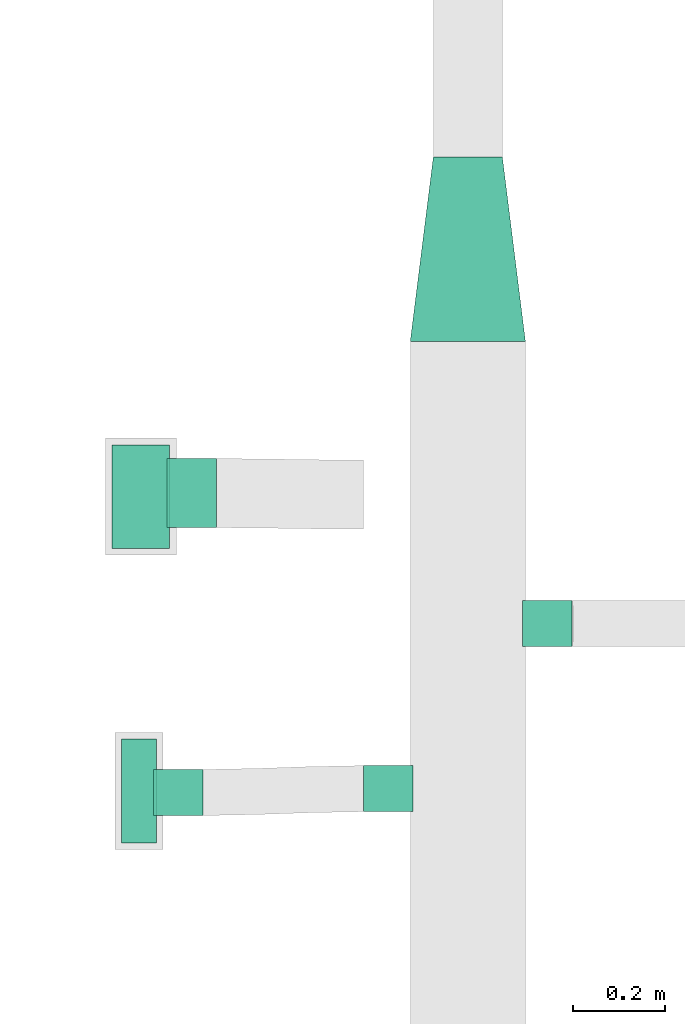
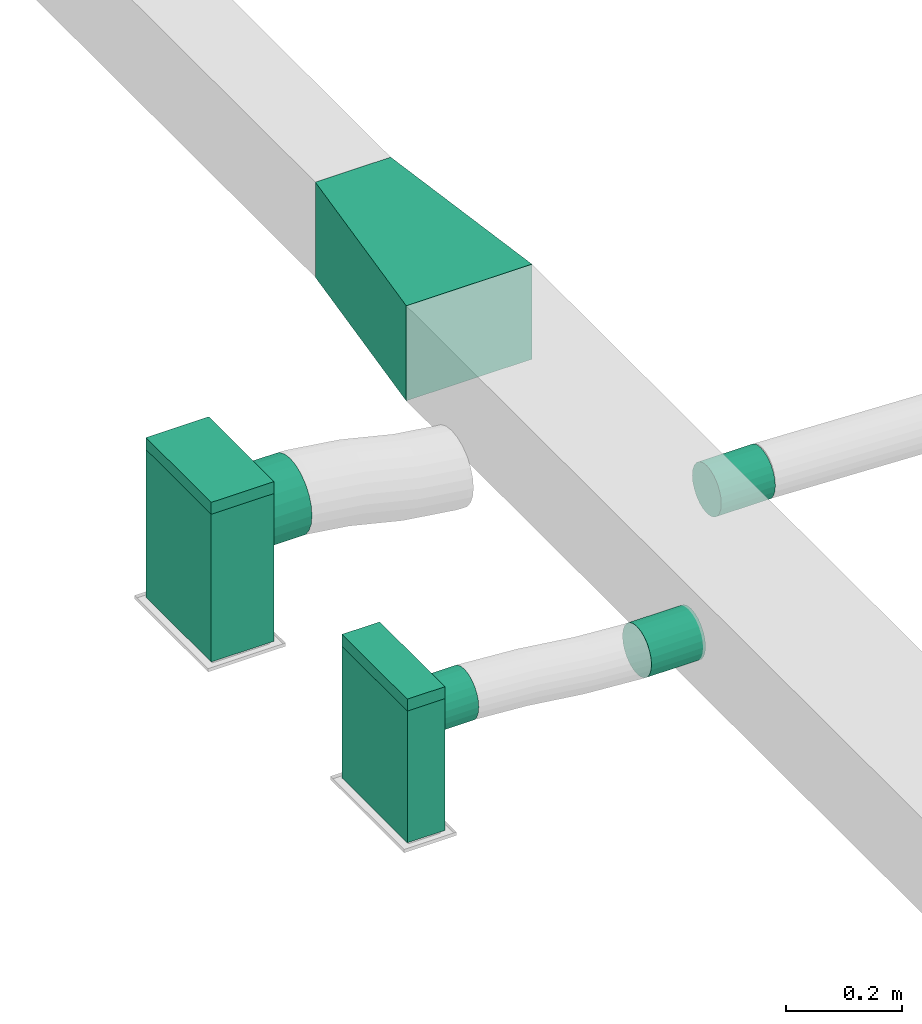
# One storey, part 21 of 60: 7 flow fittings, 2 flow segments.
"""IFC2X3 building model written with IfcOpenShell, lengths in millimetres."""

from ifc_helpers import new_model, entity, si_unit, converted_unit, derived_unit, direction, frame, origin, origin_2d_with_axis, place, context, subcontext, project, spatial, polyline, rectangle, outline, extrude, faceted_brep, source, transform, mapped, material, type_object, type_shapes, element, save


model = new_model("IFC2X3")

# Units and contexts
model_context = context("Model", 3, precision=0.01, world=origin(), true_north=direction((6.123233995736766e-17, 1.0)))
body_context = subcontext(model_context, "Body", "Model", "MODEL_VIEW")
ifc_project = project(units=[si_unit("LENGTHUNIT", "METRE", prefix="MILLI"), converted_unit("PLANEANGLEUNIT", "DEGREE", entity("IfcPlaneAngleMeasure", 0.017453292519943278), si_unit("PLANEANGLEUNIT", "RADIAN"), dimensions=[0, 0, 0, 0, 0, 0, 0]), si_unit("AREAUNIT", "SQUARE_METRE"), derived_unit("THERMALTRANSMITTANCEUNIT", [(si_unit("MASSUNIT", "GRAM", prefix="KILO"), 1), (si_unit("THERMODYNAMICTEMPERATUREUNIT", "KELVIN"), -1), (si_unit("TIMEUNIT", "SECOND"), -3)])], contexts=[model_context])

# Site, building, storey
site_placement = place(None, origin())
site = spatial("IfcSite", under=ifc_project, at=site_placement, Name="Default", CompositionType="ELEMENT")
building_placement = place(site_placement, origin())
building = spatial("IfcBuilding", under=site, at=building_placement, Name="Praça Pedro II, 1301 - Centro (Sul), Teresina - PI, 64001-100", CompositionType="ELEMENT")
storey_placement = place(building_placement, frame((0.0, 0.0, 6040.0)))
storey = spatial("IfcBuildingStorey", under=building, at=storey_placement, Name="2PAV", CompositionType="ELEMENT", Elevation=6040.0)

# Flow segments
duct_segment_type = type_object("IfcDuctSegmentType", Name="Duto retangular:Raios cotovelos / torneiras", PredefinedType="NOTDEFINED")
flow_segment_1_placement = place(storey_placement, origin())
element("IfcFlowSegment", 1, at=flow_segment_1_placement, inside=storey, type_object=duct_segment_type, Name="Duto retangular:Raios cotovelos / torneiras", ObjectType="Duto retangular:Raios cotovelos / torneiras", context=body_context, shape_type="SweptSolid", body=[
    extrude(rectangle(XDim=124.99999999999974, YDim=225.00000000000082, at=origin_2d_with_axis()), frame((9432.501796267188, -65486.79111140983, 2500.0), z_axis=(0.0, 0.0, 1.0), x_axis=(-1.0, 0.0, 0.0)), (0.0, 0.0, 1.0), 310.7036204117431),
])
flow_segment_2_placement = place(storey_placement, origin())
element("IfcFlowSegment", 2, at=flow_segment_2_placement, inside=storey, type_object=duct_segment_type, Name="Duto retangular:Raios cotovelos / torneiras", ObjectType="Duto retangular:Raios cotovelos / torneiras", context=body_context, shape_type="SweptSolid", body=[
    extrude(rectangle(XDim=75.00000000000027, YDim=225.00000000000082, at=origin_2d_with_axis()), frame((9428.5054284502, -66126.01096728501, 2500.0), z_axis=(0.0, 0.0, 1.0), x_axis=(-1.0, 0.0, 0.0)), (0.0, 0.0, 1.0), 277.1534595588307),
])

# Flow fittings
ifc_material = material(Name="<Unnamed>")
duct_fitting_type_1 = type_object("IfcDuctFittingType", Name="M_Tampa retangular:Padrão", PredefinedType="NOTDEFINED", material=ifc_material)
shared_shape_1 = source(origin(), body_context, "Body", "SweptSolid", [
    extrude(rectangle(XDim=24.999999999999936, YDim=225.00000000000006, at=origin_2d_with_axis()), frame((12.500000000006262, 0.0, -37.50000000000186)), (0.0, 0.0, 1.0), 75.0),
])
type_shapes(duct_fitting_type_1, [shared_shape_1])
flow_fitting_1_placement = place(storey_placement, frame((9428.5054284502, -66126.01096728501, 2777.153459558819), z_axis=(-1.0, 0.0, 0.0), x_axis=(0.0, 0.0, 1.0)))
element("IfcFlowFitting", 3, at=flow_fitting_1_placement, inside=storey, type_object=duct_fitting_type_1, material=ifc_material, Name="M_Tampa retangular:Padrão", ObjectType="M_Tampa retangular:Padrão", context=body_context, shape_type="MappedRepresentation", body=[
    mapped(shared_shape_1, transform((0.0, 0.0, 0.0), scale=1.0)),
])
duct_fitting_type_2 = type_object("IfcDuctFittingType", Name="M_Encaixe de duto redondo:Padrão", PredefinedType="NOTDEFINED", material=ifc_material)
shared_shape_2 = source(origin(), body_context, "Body", "Brep", [
    faceted_brep([(101.60000000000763, 50.0, 0.0), (101.60000000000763, 48.296291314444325, 12.940952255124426), (101.60000000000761, 43.301270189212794, 25.0), (101.6000000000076, 35.35533905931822, 35.35533905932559), (101.60000000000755, 25.0, 43.30127018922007), (101.60000000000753, 12.94095225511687, 48.29629131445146), (101.6000000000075, 0.0, 50.0), (101.60000000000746, -12.940952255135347, 48.29629131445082), (101.60000000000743, -25.0, 43.30127018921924), (101.6000000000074, -35.35533905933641, 35.355339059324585), (101.60000000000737, -43.301270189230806, 25.0), (101.60000000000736, -48.296291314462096, 12.940952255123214), (101.60000000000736, -50.0, 0.0), (101.60000000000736, -48.29629131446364, -12.94095225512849), (101.60000000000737, -43.301270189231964, -25.0), (101.6000000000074, -35.35533905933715, -35.35533905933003), (101.60000000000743, -25.0, -43.30127018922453), (101.60000000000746, -12.94095225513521, -48.29629131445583), (101.6000000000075, 0.0, -50.0), (101.60000000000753, 12.9409522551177, -48.29629131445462), (101.60000000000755, 25.0, -43.30127018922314), (101.6000000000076, 35.35533905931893, -35.35533905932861), (101.60000000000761, 43.30127018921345, -25.0), (101.60000000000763, 48.2962913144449, -12.940952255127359), (0.0, 12.940952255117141, 48.29629131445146), (-6.0959999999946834, 12.94095225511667, 48.29629131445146), (-6.095999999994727, 0.0, 50.0), (0.0, 0.0, 50.0), (0.0, 25.0, 43.30127018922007), (-6.0959999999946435, 25.0, 43.30127018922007), (0.0, 35.35533905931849, 35.35533905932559), (-6.095999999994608, 35.35533905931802, 35.35533905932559), (0.0, 48.296291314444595, 12.940952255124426), (-6.095999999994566, 48.296291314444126, 12.940952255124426), (-6.095999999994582, 43.3012701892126, 25.0), (0.0, 43.301270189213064, 25.0), (0.0, 50.0, 0.0), (-6.09599999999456, 50.0, 0.0), (0.0, 43.30127018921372, -25.0), (-6.095999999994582, 43.30127018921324, -25.0), (-6.095999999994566, 48.296291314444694, -12.940952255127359), (0.0, 48.29629131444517, -12.940952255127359), (0.0, 35.3553390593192, -35.35533905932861), (-6.095999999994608, 35.35533905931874, -35.35533905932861), (0.0, 12.940952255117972, -48.29629131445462), (-6.0959999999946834, 12.940952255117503, -48.29629131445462), (-6.0959999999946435, 25.0, -43.30127018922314), (0.0, 25.0, -43.30127018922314), (0.0, 0.0, -50.0), (-6.095999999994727, 0.0, -50.0), (0.0, -12.940952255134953, -48.29629131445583), (-6.09599999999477, -12.940952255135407, -48.29629131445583), (0.0, -25.0, -43.30127018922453), (-6.0959999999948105, -25.0, -43.30127018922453), (0.0, -35.35533905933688, -35.35533905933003), (-6.095999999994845, -35.355339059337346, -35.35533905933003), (0.0, -48.29629131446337, -12.94095225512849), (-6.095999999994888, -48.29629131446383, -12.94095225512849), (-6.095999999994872, -43.30127018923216, -25.0), (0.0, -43.301270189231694, -25.0), (0.0, -50.0, 0.0), (-6.095999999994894, -50.0, 0.0), (0.0, -48.296291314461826, 12.940952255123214), (-6.095999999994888, -48.296291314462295, 12.940952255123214), (0.0, -43.30127018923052, 25.0), (-6.095999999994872, -43.301270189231, 25.0), (0.0, -35.35533905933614, 35.355339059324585), (-6.095999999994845, -35.35533905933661, 35.355339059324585), (0.0, -12.940952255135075, 48.29629131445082), (-6.09599999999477, -12.940952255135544, 48.29629131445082), (-6.0959999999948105, -25.0, 43.30127018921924), (0.0, -25.0, 43.30127018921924)], [[[0, 1, 2, 3, 4, 5, 6, 7, 8, 9, 10, 11, 12, 13, 14, 15, 16, 17, 18, 19, 20, 21, 22, 23]], [[24, 25, 26, 27, 6, 5]], [[28, 29, 25, 24, 5, 4]], [[4, 3, 30, 31, 29, 28]], [[32, 33, 34, 35, 2, 1]], [[36, 37, 33, 32, 1, 0]], [[3, 2, 35, 34, 31, 30]], [[23, 22, 38, 39, 40, 41]], [[0, 23, 41, 40, 37, 36]], [[22, 21, 42, 43, 39, 38]], [[44, 45, 46, 47, 20, 19]], [[48, 49, 45, 44, 19, 18]], [[21, 20, 47, 46, 43, 42]], [[50, 51, 49, 48, 18, 17]], [[52, 53, 51, 50, 17, 16]], [[16, 15, 54, 55, 53, 52]], [[56, 57, 58, 59, 14, 13]], [[60, 61, 57, 56, 13, 12]], [[15, 14, 59, 58, 55, 54]], [[62, 63, 61, 60, 12, 11]], [[64, 65, 63, 62, 11, 10]], [[10, 9, 66, 67, 65, 64]], [[68, 69, 70, 71, 8, 7]], [[27, 26, 69, 68, 7, 6]], [[9, 8, 71, 70, 67, 66]], [[49, 51, 53, 55, 58, 57, 61, 63, 65, 67, 70, 69, 26, 25, 29, 31, 34, 33, 37, 40, 39, 43, 46, 45]]]),
])
type_shapes(duct_fitting_type_2, [shared_shape_2])
for number, where, z_axis, x_axis in (
    (4, (9466.005428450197, -66129.16913935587, 2687.5471116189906), (0.0, -1.0, 0.0), (1.0, 0.0, 0.0)),
    (5, (10017.511122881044, -66120.807806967, 2650.0), (0.0, 0.0, 1.0), (-1.0, 0.0, 0.0)),
    (6, (10267.511122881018, -65762.72452643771, 2650.0), (0.0, 0.0, -1.0), (1.0, 0.0, 0.0)),
):
    element("IfcFlowFitting", number, at=place(storey_placement, frame(where, z_axis=z_axis, x_axis=x_axis)), inside=storey, type_object=duct_fitting_type_2, material=ifc_material, Name="M_Encaixe de duto redondo:Padrão", ObjectType="M_Encaixe de duto redondo:Padrão", context=body_context, shape_type="MappedRepresentation", body=[
        mapped(shared_shape_2, transform((0.0, 0.0, 0.0), scale=1.0)),
    ])
duct_fitting_type_3 = type_object("IfcDuctFittingType", Name="M_Tampa retangular:Padrão", PredefinedType="NOTDEFINED", material=ifc_material)
shared_shape_3 = source(origin(), body_context, "Body", "SweptSolid", [
    extrude(rectangle(XDim=24.999999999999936, YDim=225.00000000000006, at=origin_2d_with_axis()), frame((12.500000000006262, 0.0, -62.500000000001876)), (0.0, 0.0, 1.0), 125.00000000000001),
])
type_shapes(duct_fitting_type_3, [shared_shape_3])
flow_fitting_2_placement = place(storey_placement, frame((9432.501796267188, -65486.791111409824, 2810.7036204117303), z_axis=(-1.0, 0.0, 0.0), x_axis=(0.0, 0.0, 1.0)))
element("IfcFlowFitting", 7, at=flow_fitting_2_placement, inside=storey, type_object=duct_fitting_type_3, material=ifc_material, Name="M_Tampa retangular:Padrão", ObjectType="M_Tampa retangular:Padrão", context=body_context, shape_type="MappedRepresentation", body=[
    mapped(shared_shape_3, transform((0.0, 0.0, 0.0), scale=1.0)),
])
duct_fitting_type_4 = type_object("IfcDuctFittingType", Name="M_Encaixe de duto redondo:Padrão", PredefinedType="NOTDEFINED", material=ifc_material)
shared_shape_4 = source(origin(), body_context, "Body", "Brep", [
    faceted_brep([(101.60000000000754, 19.411428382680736, -72.44443697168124), (101.6000000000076, 37.499999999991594, -64.95190528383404), (101.60000000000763, 53.03300858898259, -53.03300858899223), (101.60000000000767, 64.95190528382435, -37.500000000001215), (101.60000000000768, 72.44443697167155, -19.411428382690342), (101.6000000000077, 75.0, 0.0), (101.60000000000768, 72.44443697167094, 19.411428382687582), (101.60000000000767, 64.95190528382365, 37.49999999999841), (101.60000000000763, 53.033008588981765, 53.03300858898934), (101.6000000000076, 37.49999999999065, 64.95190528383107), (101.60000000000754, 19.411428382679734, 72.44443697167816), (101.6000000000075, 0.0, 75.0), (101.60000000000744, -19.4114283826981, 72.44443697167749), (101.6000000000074, -37.500000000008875, 64.95190528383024), (101.60000000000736, -53.03300858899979, 53.03300858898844), (101.60000000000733, -64.95190528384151, 37.49999999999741), (101.60000000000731, -72.4444369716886, 19.41142838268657), (101.60000000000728, -75.0, 0.0), (101.60000000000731, -72.4444369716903, -19.411428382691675), (101.60000000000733, -64.95190528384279, -37.500000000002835), (101.60000000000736, -53.033008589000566, -53.03300858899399), (101.6000000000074, -37.50000000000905, -64.95190528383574), (101.60000000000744, -19.41142838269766, -72.44443697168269), (101.6000000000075, 0.0, -75.0), (0.0, 19.411428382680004, 72.44443697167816), (-6.095999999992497, 19.411428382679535, 72.44443697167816), (-6.095999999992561, 0.0, 75.0), (0.0, 0.0, 75.0), (0.0, 37.49999999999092, 64.95190528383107), (-6.095999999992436, 37.49999999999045, 64.95190528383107), (0.0, 53.03300858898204, 53.03300858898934), (-6.095999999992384, 53.03300858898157, 53.03300858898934), (0.0, 72.44443697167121, 19.411428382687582), (-6.095999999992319, 72.44443697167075, 19.411428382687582), (-6.095999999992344, 64.95190528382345, 37.49999999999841), (0.0, 64.95190528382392, 37.49999999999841), (0.0, 75.0, 0.0), (-6.09599999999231, 75.0, 0.0), (0.0, 64.95190528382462, -37.500000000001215), (-6.095999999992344, 64.95190528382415, -37.500000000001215), (-6.095999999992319, 72.44443697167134, -19.411428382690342), (0.0, 72.44443697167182, -19.411428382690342), (0.0, 53.03300858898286, -53.03300858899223), (-6.095999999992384, 53.03300858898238, -53.03300858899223), (0.0, 19.411428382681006, -72.44443697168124), (-6.095999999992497, 19.41142838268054, -72.44443697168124), (-6.095999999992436, 37.4999999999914, -64.95190528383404), (0.0, 37.49999999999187, -64.95190528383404), (0.0, 0.0, -75.0), (-6.095999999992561, 0.0, -75.0), (0.0, -19.41142838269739, -72.44443697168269), (-6.0959999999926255, -19.41142838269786, -72.44443697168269), (0.0, -37.50000000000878, -64.95190528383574), (-6.095999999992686, -37.50000000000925, -64.95190528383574), (0.0, -53.033008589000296, -53.03300858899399), (-6.0959999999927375, -53.03300858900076, -53.03300858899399), (0.0, -72.44443697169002, -19.411428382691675), (-6.095999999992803, -72.4444369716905, -19.411428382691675), (-6.095999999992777, -64.95190528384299, -37.500000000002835), (0.0, -64.95190528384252, -37.500000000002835), (0.0, -75.0, 0.0), (-6.095999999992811, -75.0, 0.0), (0.0, -72.44443697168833, 19.41142838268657), (-6.095999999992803, -72.44443697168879, 19.41142838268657), (0.0, -64.95190528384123, 37.49999999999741), (-6.095999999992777, -64.9519052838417, 37.49999999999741), (0.0, -53.033008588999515, 53.03300858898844), (-6.0959999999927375, -53.033008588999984, 53.03300858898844), (0.0, -19.41142838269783, 72.44443697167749), (-6.0959999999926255, -19.4114283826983, 72.44443697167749), (-6.095999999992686, -37.500000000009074, 64.95190528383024), (0.0, -37.500000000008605, 64.95190528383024)], [[[0, 1, 2, 3, 4, 5, 6, 7, 8, 9, 10, 11, 12, 13, 14, 15, 16, 17, 18, 19, 20, 21, 22, 23]], [[24, 25, 26, 27, 11, 10]], [[28, 29, 25, 24, 10, 9]], [[9, 8, 30, 31, 29, 28]], [[32, 33, 34, 35, 7, 6]], [[36, 37, 33, 32, 6, 5]], [[8, 7, 35, 34, 31, 30]], [[4, 3, 38, 39, 40, 41]], [[5, 4, 41, 40, 37, 36]], [[42, 43, 39, 38, 3, 2]], [[44, 45, 46, 47, 1, 0]], [[48, 49, 45, 44, 0, 23]], [[2, 1, 47, 46, 43, 42]], [[50, 51, 49, 48, 23, 22]], [[52, 53, 51, 50, 22, 21]], [[21, 20, 54, 55, 53, 52]], [[56, 57, 58, 59, 19, 18]], [[60, 61, 57, 56, 18, 17]], [[20, 19, 59, 58, 55, 54]], [[62, 63, 61, 60, 17, 16]], [[64, 65, 63, 62, 16, 15]], [[15, 14, 66, 67, 65, 64]], [[68, 69, 70, 71, 13, 12]], [[27, 26, 69, 68, 12, 11]], [[14, 13, 71, 70, 67, 66]], [[49, 51, 53, 55, 58, 57, 61, 63, 65, 67, 70, 69, 26, 25, 29, 31, 34, 33, 37, 40, 39, 43, 46, 45]]]),
])
type_shapes(duct_fitting_type_4, [shared_shape_4])
flow_fitting_3_placement = place(storey_placement, frame((9495.001796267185, -65479.175413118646, 2701.0927845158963), z_axis=(0.0, -1.0, 0.0), x_axis=(1.0, 0.0, 0.0)))
element("IfcFlowFitting", 8, at=flow_fitting_3_placement, inside=storey, type_object=duct_fitting_type_4, material=ifc_material, Name="M_Encaixe de duto redondo:Padrão", ObjectType="M_Encaixe de duto redondo:Padrão", context=body_context, shape_type="MappedRepresentation", body=[
    mapped(shared_shape_4, transform((0.0, 0.0, 0.0), scale=1.0)),
])
duct_fitting_type_5 = type_object("IfcDuctFittingType", Name="M_Rectangular Transition - L:400 mm (L)", PredefinedType="NOTDEFINED", material=ifc_material)
shared_shape_5 = source(origin(), body_context, "Body", "SweptSolid", [
    extrude(outline(polyline([(-213.95991716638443, -99.22778767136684), (189.15297024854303, -99.22778767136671), (207.75818043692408, 49.61389383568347), (-182.95123351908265, 148.84168150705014), (-213.95991716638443, -99.22778767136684)])), frame((200.0, 0.0, -100.0), z_axis=(0.0, 0.0, 1.0), x_axis=(0.9922778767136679, 0.1240347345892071, 0.0)), (0.0, 0.0, 1.0), 200.0),
])
type_shapes(duct_fitting_type_5, [shared_shape_5])
flow_fitting_4_placement = place(storey_placement, frame((10142.511122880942, -65149.76922971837, 2650.0), z_axis=(0.0, 0.0, 1.0), x_axis=(0.0, 1.0, 0.0)))
element("IfcFlowFitting", 9, at=flow_fitting_4_placement, inside=storey, type_object=duct_fitting_type_5, material=ifc_material, Name="M_Rectangular Transition - L:400 mm (L)", ObjectType="M_Rectangular Transition - L:400 mm (L)", context=body_context, shape_type="MappedRepresentation", body=[
    mapped(shared_shape_5, transform((0.0, 0.0, 0.0), scale=1.0)),
])

save(model, "model.ifc")
